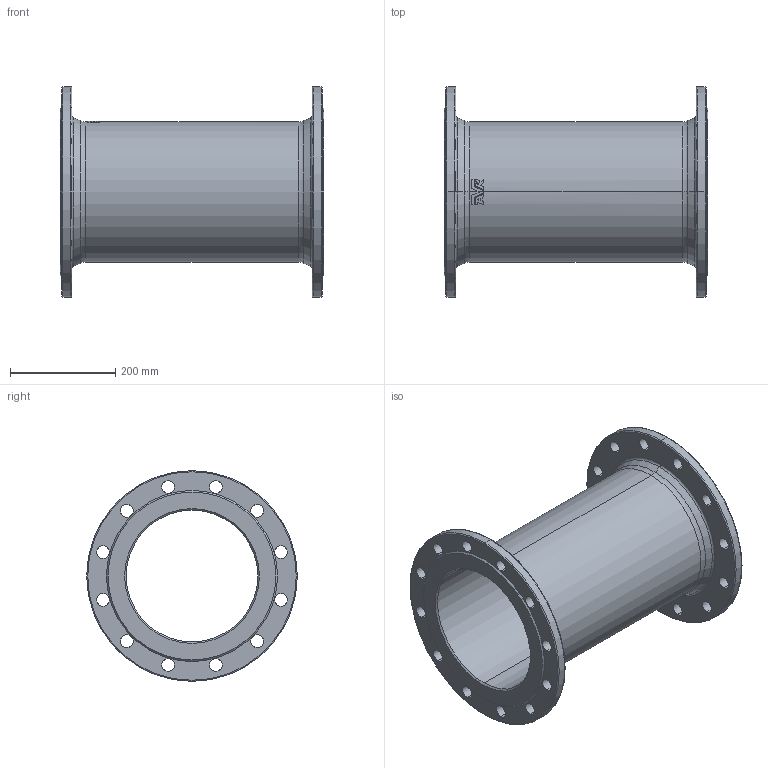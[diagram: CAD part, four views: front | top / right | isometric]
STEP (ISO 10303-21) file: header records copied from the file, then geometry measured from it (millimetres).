
FILE_DESCRIPTION (( 'STEP AP203' ), '1' );
FILE_NAME ('O_712_4810_DN250_0X_REV01.step', '2021-12-01T10:45:20', ( '' ), ( '' ), 'SwSTEP 2.0', 'SolidWorks 2019', '' );
FILE_SCHEMA (( 'CONFIG_CONTROL_DESIGN' ));
Length unit declared in the file: millimetre
Products named in the file (1): O_712_4810_DN250_0X_REV01
Bounding box: 500 x 400 x 400 mm (x, y, z)
Volume: 6016608.5 mm3; surface area: 1110390.4 mm2
Topology: 1 solids, 1 shells, 132 faces, 343 edges, 220 vertices
Faces by surface type: cylinder 61, plane 26, bspline 17, torus 16, cone 12
Entity records: 4890 total; most frequent: CARTESIAN_POINT 1415, DIRECTION 735, ORIENTED_EDGE 686, EDGE_CURVE 343, AXIS2_PLACEMENT_3D 310, VERTEX_POINT 220, CIRCLE 194, EDGE_LOOP 189
